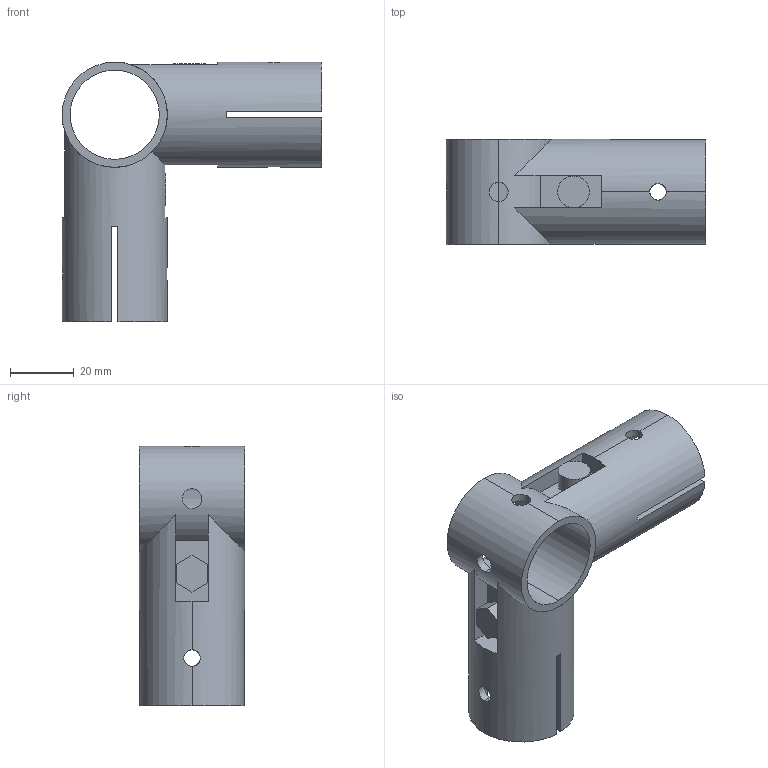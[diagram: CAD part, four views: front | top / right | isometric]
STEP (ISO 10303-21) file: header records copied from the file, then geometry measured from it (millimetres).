
FILE_DESCRIPTION (( 'STEP AP214' ), '1' );
FILE_NAME ('NSJ-2.STEP', '2023-10-11T06:39:42', ( 'catia' ), ( 'HP Inc.' ), 'SwSTEP 2.0', 'SolidWorks 2021', '' );
FILE_SCHEMA (( 'AUTOMOTIVE_DESIGN' ));
Length unit declared in the file: millimetre
Products named in the file (1): NSJ-2
Bounding box: 81.5 x 33 x 81.5 mm (x, y, z)
Volume: 52960.1 mm3; surface area: 25124.8 mm2
Topology: 1 solids, 1 shells, 80 faces, 230 edges, 148 vertices
Faces by surface type: plane 47, cylinder 33
Entity records: 3366 total; most frequent: CARTESIAN_POINT 1247, ORIENTED_EDGE 460, DIRECTION 410, EDGE_CURVE 230, VERTEX_POINT 148, AXIS2_PLACEMENT_3D 137, VECTOR 136, LINE 136
